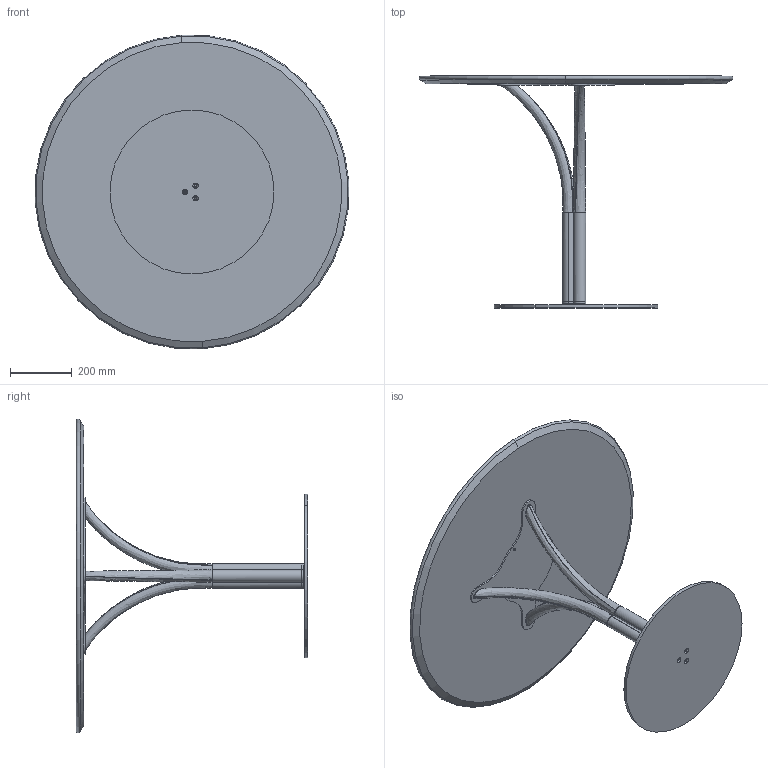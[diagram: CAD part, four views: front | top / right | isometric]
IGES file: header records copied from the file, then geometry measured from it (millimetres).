
Start section: SolidWorks IGES file using analytic representation for surfaces
Global section: file name: Y:\eforma\TECNICO\SOLIDWORKS\E-FORMA\5-TAVOLINI BISTRO\DODÒ\02 parts\DB30B.IGS; native system: SolidWorks 2022; preprocessor: SolidWorks 2022; author: eforma.tech; date: 240808.101702; units: millimetre
Bounding box: 1014.42 x 750 x 1014.63 mm (x, y, z)
Volume: 22819597.6 mm3; surface area: 4404190.2 mm2
Topology: 10 solids, 10 shells, 110 faces, 259 edges, 170 vertices
Faces by surface type: revolution 71, plane 27, bspline 12
